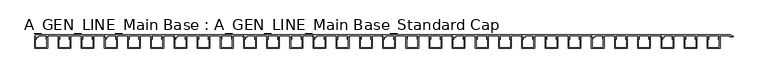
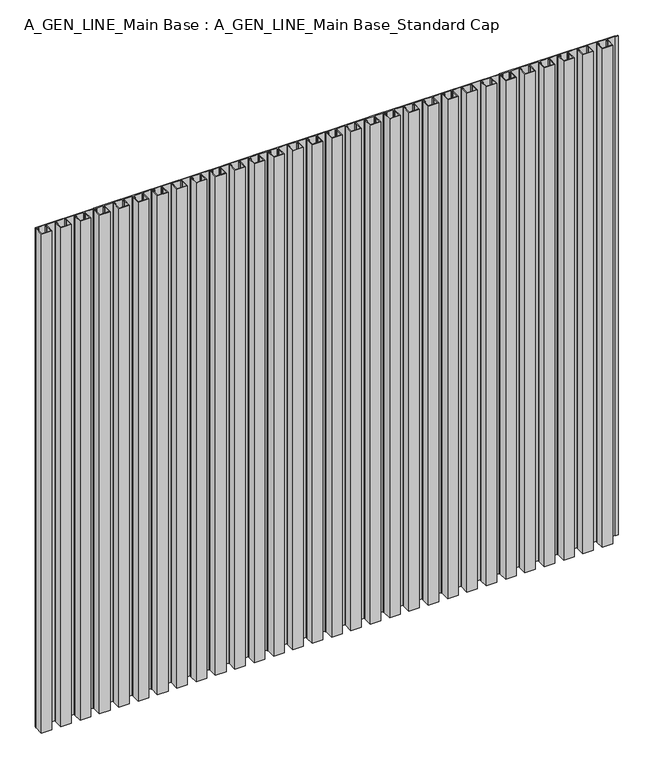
"""IFC4 building model written with IfcOpenShell, lengths in millimetres: proxy geometry, A_GEN_LINE_Main Base : A_GEN_LINE_Main Base_Standard Cap."""

from ifc_helpers import new_model, si_unit, origin, origin_with_axes, place, context, project, spatial, polyline, outline, extrude, source, transform, mapped, element, save


def a_gen_line_main_base_a_gen_line_main_base_standard_cap_d351ea36(model_context):
    return source(origin(), model_context, "Body", "SweptSolid", [
        extrude(outline(polyline([(1594.5994542, -32.2007192), (1594.5994542, -6.1), (1596.7484612, -6.1), (1596.7484612, -8.3419727), (1595.9994542, -8.5826662), (1595.9994542, -30.8007192), (1623.1994542, -30.8007192), (1623.1994542, -8.5826662), (1622.4504472, -8.3419727), (1622.4504472, -6.1), (1624.5994542, -6.1), (1624.5994542, -32.2007192), (1594.5994542, -32.2007192)])), origin_with_axes(), (0.0, 0.0, 1.0), 1500.0),
        extrude(outline(polyline([(1539.5989548, -32.2007192), (1539.5989548, -6.1), (1541.7479618, -6.1), (1541.7479618, -8.3419727), (1540.9989548, -8.5826662), (1540.9989548, -30.8007192), (1568.1989548, -30.8007192), (1568.1989548, -8.5826662), (1567.4499478, -8.3419727), (1567.4499478, -6.1), (1569.5989548, -6.1), (1569.5989548, -32.2007192), (1539.5989548, -32.2007192)])), origin_with_axes(), (0.0, 0.0, 1.0), 1500.0),
        extrude(outline(polyline([(1484.5984554, -32.2007192), (1484.5984554, -6.1), (1486.7474624, -6.1), (1486.7474624, -8.3419727), (1485.9984554, -8.5826662), (1485.9984554, -30.8007192), (1513.1984554, -30.8007192), (1513.1984554, -8.5826662), (1512.4494485, -8.3419727), (1512.4494485, -6.1), (1514.5984554, -6.1), (1514.5984554, -32.2007192), (1484.5984554, -32.2007192)])), origin_with_axes(), (0.0, 0.0, 1.0), 1500.0),
        extrude(outline(polyline([(1429.597956, -32.2007192), (1429.597956, -6.1), (1431.746963, -6.1), (1431.746963, -8.3419727), (1430.997956, -8.5826662), (1430.997956, -30.8007192), (1458.197956, -30.8007192), (1458.197956, -8.5826662), (1457.4489491, -8.3419727), (1457.4489491, -6.1), (1459.597956, -6.1), (1459.597956, -32.2007192), (1429.597956, -32.2007192)])), origin_with_axes(), (0.0, 0.0, 1.0), 1500.0),
        extrude(outline(polyline([(1374.5974566, -32.2007192), (1374.5974566, -6.1), (1376.7464636, -6.1), (1376.7464636, -8.3419727), (1375.9974566, -8.5826662), (1375.9974566, -30.8007192), (1403.1974566, -30.8007192), (1403.1974566, -8.5826662), (1402.4484497, -8.3419727), (1402.4484497, -6.1), (1404.5974566, -6.1), (1404.5974566, -32.2007192), (1374.5974566, -32.2007192)])), origin_with_axes(), (0.0, 0.0, 1.0), 1500.0),
        extrude(outline(polyline([(1319.5969572, -32.2007192), (1319.5969572, -6.1), (1321.7459642, -6.1), (1321.7459642, -8.3419727), (1320.9969572, -8.5826662), (1320.9969572, -30.8007192), (1348.1969572, -30.8007192), (1348.1969572, -8.5826662), (1347.4479503, -8.3419727), (1347.4479503, -6.1), (1349.5969572, -6.1), (1349.5969572, -32.2007192), (1319.5969572, -32.2007192)])), origin_with_axes(), (0.0, 0.0, 1.0), 1500.0),
        extrude(outline(polyline([(1264.5964579, -32.2007192), (1264.5964579, -6.1), (1266.7454648, -6.1), (1266.7454648, -8.3419727), (1265.9964579, -8.5826662), (1265.9964579, -30.8007192), (1293.1964579, -30.8007192), (1293.1964579, -8.5826662), (1292.4474509, -8.3419727), (1292.4474509, -6.1), (1294.5964579, -6.1), (1294.5964579, -32.2007192), (1264.5964579, -32.2007192)])), origin_with_axes(), (0.0, 0.0, 1.0), 1500.0),
        extrude(outline(polyline([(1209.5959585, -32.2007192), (1209.5959585, -6.1), (1211.7449654, -6.1), (1211.7449654, -8.3419727), (1210.9959585, -8.5826662), (1210.9959585, -30.8007192), (1238.1959585, -30.8007192), (1238.1959585, -8.5826662), (1237.4469515, -8.3419727), (1237.4469515, -6.1), (1239.5959585, -6.1), (1239.5959585, -32.2007192), (1209.5959585, -32.2007192)])), origin_with_axes(), (0.0, 0.0, 1.0), 1500.0),
        extrude(outline(polyline([(1154.5954591, -32.2007192), (1154.5954591, -6.1), (1156.744466, -6.1), (1156.744466, -8.3419727), (1155.9954591, -8.5826662), (1155.9954591, -30.8007192), (1183.1954591, -30.8007192), (1183.1954591, -8.5826662), (1182.4464521, -8.3419727), (1182.4464521, -6.1), (1184.5954591, -6.1), (1184.5954591, -32.2007192), (1154.5954591, -32.2007192)])), origin_with_axes(), (0.0, 0.0, 1.0), 1500.0),
        extrude(outline(polyline([(1485.0, 0.0), (1649.5761088, 0.0), (1649.5761088, -2.85), (1655.5761088, -2.85), (1655.5761088, -4.2), (1648.0577537, -4.2), (1648.0577537, -2.4), (1624.5881862, -2.4), (1624.5881862, -6.1021884), (1623.4732128, -6.1021884), (1621.884647, -8.4994005), (1623.1465809, -8.4994005), (1623.1465809, -10.4818695), (1620.9440548, -10.4818695), (1620.9773381, -5.5238337), (1623.0474159, -2.4), (1596.1309809, -2.4), (1598.2301021, -5.6343123), (1598.2301021, -10.4818695), (1596.027576, -10.4818695), (1596.027576, -8.4994005), (1597.2895099, -8.4994005), (1595.7009441, -6.1021884), (1594.5859707, -6.1021884), (1594.5859707, -2.4), (1569.5854713, -2.4), (1569.5854713, -6.1021884), (1568.4704978, -6.1021884), (1566.881932, -8.4994005), (1568.1438659, -8.4994005), (1568.1438659, -10.4818695), (1565.9413399, -10.4818695), (1565.9413399, -5.5740595), (1568.0447009, -2.4), (1541.1304815, -2.4), (1543.2296027, -5.6343123), (1543.2296027, -10.4818695), (1541.0270766, -10.4818695), (1541.0270766, -8.4994005), (1542.2890105, -8.4994005), (1540.7004447, -6.1021884), (1539.5854713, -6.1021884), (1539.5854713, -2.4), (1514.5849719, -2.4), (1514.5849719, -6.1021884), (1513.4699984, -6.1021884), (1511.8814326, -8.4994005), (1513.1433665, -8.4994005), (1513.1433665, -10.4818695), (1510.9408405, -10.4818695), (1510.9408405, -5.6343123), (1513.0399616, -2.4), (1492.2195527, -2.4), (1492.2195527, -6.1), (1488.2291033, -6.1), (1488.2291033, -10.4818695), (1486.0265772, -10.4818695), (1486.0265772, -8.4994005), (1487.2885111, -8.4994005), (1485.6999453, -6.1021884), (1484.6137598, -6.1021884), (1484.6137598, -4.9), (1491.0195527, -4.9), (1491.0195527, -2.7), (1485.0, -2.7), (1485.0, 0.0)])), origin_with_axes(), (0.0, 0.0, 1.0), 1500.0),
        extrude(outline(polyline([(1320.0, 0.0), (1484.5761088, 0.0), (1484.5761088, -2.85), (1490.5761088, -2.85), (1490.5761088, -4.2), (1483.0577537, -4.2), (1483.0577537, -2.4), (1459.5881862, -2.4), (1459.5881862, -6.1021884), (1458.4732128, -6.1021884), (1456.884647, -8.4994005), (1458.1465809, -8.4994005), (1458.1465809, -10.4818695), (1455.9440548, -10.4818695), (1455.9773381, -5.5238337), (1458.0474159, -2.4), (1431.1309809, -2.4), (1433.2301021, -5.6343123), (1433.2301021, -10.4818695), (1431.027576, -10.4818695), (1431.027576, -8.4994005), (1432.2895099, -8.4994005), (1430.7009441, -6.1021884), (1429.5859707, -6.1021884), (1429.5859707, -2.4), (1404.5854713, -2.4), (1404.5854713, -6.1021884), (1403.4704978, -6.1021884), (1401.881932, -8.4994005), (1403.1438659, -8.4994005), (1403.1438659, -10.4818695), (1400.9413399, -10.4818695), (1400.9413399, -5.5740595), (1403.0447009, -2.4), (1376.1304815, -2.4), (1378.2296027, -5.6343123), (1378.2296027, -10.4818695), (1376.0270766, -10.4818695), (1376.0270766, -8.4994005), (1377.2890105, -8.4994005), (1375.7004447, -6.1021884), (1374.5854713, -6.1021884), (1374.5854713, -2.4), (1349.5849719, -2.4), (1349.5849719, -6.1021884), (1348.4699984, -6.1021884), (1346.8814326, -8.4994005), (1348.1433665, -8.4994005), (1348.1433665, -10.4818695), (1345.9408405, -10.4818695), (1345.9408405, -5.6343123), (1348.0399616, -2.4), (1327.2195527, -2.4), (1327.2195527, -6.1), (1323.2291033, -6.1), (1323.2291033, -10.4818695), (1321.0265772, -10.4818695), (1321.0265772, -8.4994005), (1322.2885111, -8.4994005), (1320.6999453, -6.1021884), (1319.6137598, -6.1021884), (1319.6137598, -4.9), (1326.0195527, -4.9), (1326.0195527, -2.7), (1320.0, -2.7), (1320.0, 0.0)])), origin_with_axes(), (0.0, 0.0, 1.0), 1500.0),
        extrude(outline(polyline([(1155.0, 0.0), (1319.5761088, 0.0), (1319.5761088, -2.85), (1325.5761088, -2.85), (1325.5761088, -4.2), (1318.0577537, -4.2), (1318.0577537, -2.4), (1294.5881862, -2.4), (1294.5881862, -6.1021884), (1293.4732128, -6.1021884), (1291.884647, -8.4994005), (1293.1465809, -8.4994005), (1293.1465809, -10.4818695), (1290.9440548, -10.4818695), (1290.9773381, -5.5238337), (1293.0474159, -2.4), (1266.1309809, -2.4), (1268.2301021, -5.6343123), (1268.2301021, -10.4818695), (1266.027576, -10.4818695), (1266.027576, -8.4994005), (1267.2895099, -8.4994005), (1265.7009441, -6.1021884), (1264.5859707, -6.1021884), (1264.5859707, -2.4), (1239.5854713, -2.4), (1239.5854713, -6.1021884), (1238.4704978, -6.1021884), (1236.881932, -8.4994005), (1238.1438659, -8.4994005), (1238.1438659, -10.4818695), (1235.9413399, -10.4818695), (1235.9413399, -5.5740595), (1238.0447009, -2.4), (1211.1304815, -2.4), (1213.2296027, -5.6343123), (1213.2296027, -10.4818695), (1211.0270766, -10.4818695), (1211.0270766, -8.4994005), (1212.2890105, -8.4994005), (1210.7004447, -6.1021884), (1209.5854713, -6.1021884), (1209.5854713, -2.4), (1184.5849719, -2.4), (1184.5849719, -6.1021884), (1183.4699984, -6.1021884), (1181.8814326, -8.4994005), (1183.1433665, -8.4994005), (1183.1433665, -10.4818695), (1180.9408405, -10.4818695), (1180.9408405, -5.6343123), (1183.0399616, -2.4), (1162.2195527, -2.4), (1162.2195527, -6.1), (1158.2291033, -6.1), (1158.2291033, -10.4818695), (1156.0265772, -10.4818695), (1156.0265772, -8.4994005), (1157.2885111, -8.4994005), (1155.6999453, -6.1021884), (1154.6137598, -6.1021884), (1154.6137598, -4.9), (1161.0195527, -4.9), (1161.0195527, -2.7), (1155.0, -2.7), (1155.0, 0.0)])), origin_with_axes(), (0.0, 0.0, 1.0), 1500.0),
        extrude(outline(polyline([(1099.5949597, -32.2007192), (1099.5949597, -6.1), (1101.7439666, -6.1), (1101.7439666, -8.3419727), (1100.9949597, -8.5826662), (1100.9949597, -30.8007192), (1128.1949597, -30.8007192), (1128.1949597, -8.5826662), (1127.4459527, -8.3419727), (1127.4459527, -6.1), (1129.5949597, -6.1), (1129.5949597, -32.2007192), (1099.5949597, -32.2007192)])), origin_with_axes(), (0.0, 0.0, 1.0), 1500.0),
        extrude(outline(polyline([(1044.5944603, -32.2007192), (1044.5944603, -6.1), (1046.7434673, -6.1), (1046.7434673, -8.3419727), (1045.9944603, -8.5826662), (1045.9944603, -30.8007192), (1073.1944603, -30.8007192), (1073.1944603, -8.5826662), (1072.4454533, -8.3419727), (1072.4454533, -6.1), (1074.5944603, -6.1), (1074.5944603, -32.2007192), (1044.5944603, -32.2007192)])), origin_with_axes(), (0.0, 0.0, 1.0), 1500.0),
        extrude(outline(polyline([(989.5939609, -32.2007192), (989.5939609, -6.1), (991.7429679, -6.1), (991.7429679, -8.3419727), (990.9939609, -8.5826662), (990.9939609, -30.8007192), (1018.1939609, -30.8007192), (1018.1939609, -8.5826662), (1017.4449539, -8.3419727), (1017.4449539, -6.1), (1019.5939609, -6.1), (1019.5939609, -32.2007192), (989.5939609, -32.2007192)])), origin_with_axes(), (0.0, 0.0, 1.0), 1500.0),
        extrude(outline(polyline([(934.5934615, -32.2007192), (934.5934615, -6.1), (936.7424685, -6.1), (936.7424685, -8.3419727), (935.9934615, -8.5826662), (935.9934615, -30.8007192), (963.1934615, -30.8007192), (963.1934615, -8.5826662), (962.4444546, -8.3419727), (962.4444546, -6.1), (964.5934615, -6.1), (964.5934615, -32.2007192), (934.5934615, -32.2007192)])), origin_with_axes(), (0.0, 0.0, 1.0), 1500.0),
        extrude(outline(polyline([(879.5929621, -32.2007192), (879.5929621, -6.1), (881.7419691, -6.1), (881.7419691, -8.3419727), (880.9929621, -8.5826662), (880.9929621, -30.8007192), (908.1929621, -30.8007192), (908.1929621, -8.5826662), (907.4439552, -8.3419727), (907.4439552, -6.1), (909.5929621, -6.1), (909.5929621, -32.2007192), (879.5929621, -32.2007192)])), origin_with_axes(), (0.0, 0.0, 1.0), 1500.0),
        extrude(outline(polyline([(824.5924627, -32.2007192), (824.5924627, -6.1), (826.7414697, -6.1), (826.7414697, -8.3419727), (825.9924627, -8.5826662), (825.9924627, -30.8007192), (853.1924627, -30.8007192), (853.1924627, -8.5826662), (852.4434558, -8.3419727), (852.4434558, -6.1), (854.5924627, -6.1), (854.5924627, -32.2007192), (824.5924627, -32.2007192)])), origin_with_axes(), (0.0, 0.0, 1.0), 1500.0),
        extrude(outline(polyline([(769.5919633, -32.2007192), (769.5919633, -6.1), (771.7409703, -6.1), (771.7409703, -8.3419727), (770.9919633, -8.5826662), (770.9919633, -30.8007192), (798.1919633, -30.8007192), (798.1919633, -8.5826662), (797.4429564, -8.3419727), (797.4429564, -6.1), (799.5919633, -6.1), (799.5919633, -32.2007192), (769.5919633, -32.2007192)])), origin_with_axes(), (0.0, 0.0, 1.0), 1500.0),
        extrude(outline(polyline([(714.5914639, -32.2007192), (714.5914639, -6.1), (716.7404709, -6.1), (716.7404709, -8.3419727), (715.9914639, -8.5826662), (715.9914639, -30.8007192), (743.1914639, -30.8007192), (743.1914639, -8.5826662), (742.442457, -8.3419727), (742.442457, -6.1), (744.5914639, -6.1), (744.5914639, -32.2007192), (714.5914639, -32.2007192)])), origin_with_axes(), (0.0, 0.0, 1.0), 1500.0),
        extrude(outline(polyline([(659.5909646, -32.2007192), (659.5909646, -6.1), (661.7399715, -6.1), (661.7399715, -8.3419727), (660.9909646, -8.5826662), (660.9909646, -30.8007192), (688.1909646, -30.8007192), (688.1909646, -8.5826662), (687.4419576, -8.3419727), (687.4419576, -6.1), (689.5909646, -6.1), (689.5909646, -32.2007192), (659.5909646, -32.2007192)])), origin_with_axes(), (0.0, 0.0, 1.0), 1500.0),
        extrude(outline(polyline([(604.5904652, -32.2007192), (604.5904652, -6.1), (606.7394721, -6.1), (606.7394721, -8.3419727), (605.9904652, -8.5826662), (605.9904652, -30.8007192), (633.1904652, -30.8007192), (633.1904652, -8.5826662), (632.4414582, -8.3419727), (632.4414582, -6.1), (634.5904652, -6.1), (634.5904652, -32.2007192), (604.5904652, -32.2007192)])), origin_with_axes(), (0.0, 0.0, 1.0), 1500.0),
        extrude(outline(polyline([(549.5899658, -32.2007192), (549.5899658, -6.1), (551.7389727, -6.1), (551.7389727, -8.3419727), (550.9899658, -8.5826662), (550.9899658, -30.8007192), (578.1899658, -30.8007192), (578.1899658, -8.5826662), (577.4409588, -8.3419727), (577.4409588, -6.1), (579.5899658, -6.1), (579.5899658, -32.2007192), (549.5899658, -32.2007192)])), origin_with_axes(), (0.0, 0.0, 1.0), 1500.0),
        extrude(outline(polyline([(494.5894664, -32.2007192), (494.5894664, -6.1), (496.7384733, -6.1), (496.7384733, -8.3419727), (495.9894664, -8.5826662), (495.9894664, -30.8007192), (523.1894664, -30.8007192), (523.1894664, -8.5826662), (522.4404594, -8.3419727), (522.4404594, -6.1), (524.5894664, -6.1), (524.5894664, -32.2007192), (494.5894664, -32.2007192)])), origin_with_axes(), (0.0, 0.0, 1.0), 1500.0),
        extrude(outline(polyline([(439.588967, -32.2007192), (439.588967, -6.1), (441.737974, -6.1), (441.737974, -8.3419727), (440.988967, -8.5826662), (440.988967, -30.8007192), (468.188967, -30.8007192), (468.188967, -8.5826662), (467.43996, -8.3419727), (467.43996, -6.1), (469.588967, -6.1), (469.588967, -32.2007192), (439.588967, -32.2007192)])), origin_with_axes(), (0.0, 0.0, 1.0), 1500.0),
        extrude(outline(polyline([(384.5884676, -32.2007192), (384.5884676, -6.1), (386.7374746, -6.1), (386.7374746, -8.3419727), (385.9884676, -8.5826662), (385.9884676, -30.8007192), (413.1884676, -30.8007192), (413.1884676, -8.5826662), (412.4394606, -8.3419727), (412.4394606, -6.1), (414.5884676, -6.1), (414.5884676, -32.2007192), (384.5884676, -32.2007192)])), origin_with_axes(), (0.0, 0.0, 1.0), 1500.0),
        extrude(outline(polyline([(329.5879682, -32.2007192), (329.5879682, -6.1), (331.7369752, -6.1), (331.7369752, -8.3419727), (330.9879682, -8.5826662), (330.9879682, -30.8007192), (358.1879682, -30.8007192), (358.1879682, -8.5826662), (357.4389613, -8.3419727), (357.4389613, -6.1), (359.5879682, -6.1), (359.5879682, -32.2007192), (329.5879682, -32.2007192)])), origin_with_axes(), (0.0, 0.0, 1.0), 1500.0),
        extrude(outline(polyline([(274.5874688, -32.2007192), (274.5874688, -6.1), (276.7364758, -6.1), (276.7364758, -8.3419727), (275.9874688, -8.5826662), (275.9874688, -30.8007192), (303.1874688, -30.8007192), (303.1874688, -8.5826662), (302.4384619, -8.3419727), (302.4384619, -6.1), (304.5874688, -6.1), (304.5874688, -32.2007192), (274.5874688, -32.2007192)])), origin_with_axes(), (0.0, 0.0, 1.0), 1500.0),
        extrude(outline(polyline([(219.5869694, -32.2007192), (219.5869694, -6.1), (221.7359764, -6.1), (221.7359764, -8.3419727), (220.9869694, -8.5826662), (220.9869694, -30.8007192), (248.1869694, -30.8007192), (248.1869694, -8.5826662), (247.4379625, -8.3419727), (247.4379625, -6.1), (249.5869694, -6.1), (249.5869694, -32.2007192), (219.5869694, -32.2007192)])), origin_with_axes(), (0.0, 0.0, 1.0), 1500.0),
        extrude(outline(polyline([(164.58647, -32.2007192), (164.58647, -6.1), (166.735477, -6.1), (166.735477, -8.3419727), (165.98647, -8.5826662), (165.98647, -30.8007192), (193.18647, -30.8007192), (193.18647, -8.5826662), (192.4374631, -8.3419727), (192.4374631, -6.1), (194.58647, -6.1), (194.58647, -32.2007192), (164.58647, -32.2007192)])), origin_with_axes(), (0.0, 0.0, 1.0), 1500.0),
        extrude(outline(polyline([(109.5859707, -32.2007192), (109.5859707, -6.1), (111.7349776, -6.1), (111.7349776, -8.3419727), (110.9859707, -8.5826662), (110.9859707, -30.8007192), (138.1859707, -30.8007192), (138.1859707, -8.5826662), (137.4369637, -8.3419727), (137.4369637, -6.1), (139.5859707, -6.1), (139.5859707, -32.2007192), (109.5859707, -32.2007192)])), origin_with_axes(), (0.0, 0.0, 1.0), 1500.0),
        extrude(outline(polyline([(54.5854713, -32.2007192), (54.5854713, -6.1), (56.7344782, -6.1), (56.7344782, -8.3419727), (55.9854713, -8.5826662), (55.9854713, -30.8007192), (83.1854713, -30.8007192), (83.1854713, -8.5826662), (82.4364643, -8.3419727), (82.4364643, -6.1), (84.5854713, -6.1), (84.5854713, -32.2007192), (54.5854713, -32.2007192)])), origin_with_axes(), (0.0, 0.0, 1.0), 1500.0),
        extrude(outline(polyline([(-0.4150281, -32.2007192), (-0.4150281, -6.1), (1.7339788, -6.1), (1.7339788, -8.3419727), (0.9849719, -8.5826662), (0.9849719, -30.8007192), (28.1849719, -30.8007192), (28.1849719, -8.5826662), (27.4359649, -8.3419727), (27.4359649, -6.1), (29.5849719, -6.1), (29.5849719, -32.2007192), (-0.4150281, -32.2007192)])), origin_with_axes(), (0.0, 0.0, 1.0), 1500.0),
        extrude(outline(polyline([(990.0, 0.0), (1154.5761088, 0.0), (1154.5761088, -2.85), (1160.5761088, -2.85), (1160.5761088, -4.2), (1153.0577537, -4.2), (1153.0577537, -2.4), (1129.5881862, -2.4), (1129.5881862, -6.1021884), (1128.4732128, -6.1021884), (1126.884647, -8.4994005), (1128.1465809, -8.4994005), (1128.1465809, -10.4818695), (1125.9440548, -10.4818695), (1125.9773381, -5.5238337), (1128.0474159, -2.4), (1101.1309809, -2.4), (1103.2301021, -5.6343123), (1103.2301021, -10.4818695), (1101.027576, -10.4818695), (1101.027576, -8.4994005), (1102.2895099, -8.4994005), (1100.7009441, -6.1021884), (1099.5859707, -6.1021884), (1099.5859707, -2.4), (1074.5854713, -2.4), (1074.5854713, -6.1021884), (1073.4704978, -6.1021884), (1071.881932, -8.4994005), (1073.1438659, -8.4994005), (1073.1438659, -10.4818695), (1070.9413399, -10.4818695), (1070.9413399, -5.5740595), (1073.0447009, -2.4), (1046.1304815, -2.4), (1048.2296027, -5.6343123), (1048.2296027, -10.4818695), (1046.0270766, -10.4818695), (1046.0270766, -8.4994005), (1047.2890105, -8.4994005), (1045.7004447, -6.1021884), (1044.5854713, -6.1021884), (1044.5854713, -2.4), (1019.5849719, -2.4), (1019.5849719, -6.1021884), (1018.4699984, -6.1021884), (1016.8814326, -8.4994005), (1018.1433665, -8.4994005), (1018.1433665, -10.4818695), (1015.9408405, -10.4818695), (1015.9408405, -5.6343123), (1018.0399616, -2.4), (997.2195527, -2.4), (997.2195527, -6.1), (993.2291033, -6.1), (993.2291033, -10.4818695), (991.0265772, -10.4818695), (991.0265772, -8.4994005), (992.2885111, -8.4994005), (990.6999453, -6.1021884), (989.6137598, -6.1021884), (989.6137598, -4.9), (996.0195527, -4.9), (996.0195527, -2.7), (990.0, -2.7), (990.0, 0.0)])), origin_with_axes(), (0.0, 0.0, 1.0), 1500.0),
        extrude(outline(polyline([(825.0, 0.0), (989.5761088, 0.0), (989.5761088, -2.85), (995.5761088, -2.85), (995.5761088, -4.2), (988.0577537, -4.2), (988.0577537, -2.4), (964.5881862, -2.4), (964.5881862, -6.1021884), (963.4732128, -6.1021884), (961.884647, -8.4994005), (963.1465809, -8.4994005), (963.1465809, -10.4818695), (960.9440548, -10.4818695), (960.9773381, -5.5238337), (963.0474159, -2.4), (936.1309809, -2.4), (938.2301021, -5.6343123), (938.2301021, -10.4818695), (936.027576, -10.4818695), (936.027576, -8.4994005), (937.2895099, -8.4994005), (935.7009441, -6.1021884), (934.5859707, -6.1021884), (934.5859707, -2.4), (909.5854713, -2.4), (909.5854713, -6.1021884), (908.4704978, -6.1021884), (906.881932, -8.4994005), (908.1438659, -8.4994005), (908.1438659, -10.4818695), (905.9413399, -10.4818695), (905.9413399, -5.5740595), (908.0447009, -2.4), (881.1304815, -2.4), (883.2296027, -5.6343123), (883.2296027, -10.4818695), (881.0270766, -10.4818695), (881.0270766, -8.4994005), (882.2890105, -8.4994005), (880.7004447, -6.1021884), (879.5854713, -6.1021884), (879.5854713, -2.4), (854.5849719, -2.4), (854.5849719, -6.1021884), (853.4699984, -6.1021884), (851.8814326, -8.4994005), (853.1433665, -8.4994005), (853.1433665, -10.4818695), (850.9408405, -10.4818695), (850.9408405, -5.6343123), (853.0399616, -2.4), (832.2195527, -2.4), (832.2195527, -6.1), (828.2291033, -6.1), (828.2291033, -10.4818695), (826.0265772, -10.4818695), (826.0265772, -8.4994005), (827.2885111, -8.4994005), (825.6999453, -6.1021884), (824.6137598, -6.1021884), (824.6137598, -4.9), (831.0195527, -4.9), (831.0195527, -2.7), (825.0, -2.7), (825.0, 0.0)])), origin_with_axes(), (0.0, 0.0, 1.0), 1500.0),
        extrude(outline(polyline([(660.0, 0.0), (824.5761088, 0.0), (824.5761088, -2.85), (830.5761088, -2.85), (830.5761088, -4.2), (823.0577537, -4.2), (823.0577537, -2.4), (799.5881862, -2.4), (799.5881862, -6.1021884), (798.4732128, -6.1021884), (796.884647, -8.4994005), (798.1465809, -8.4994005), (798.1465809, -10.4818695), (795.9440548, -10.4818695), (795.9773381, -5.5238337), (798.0474159, -2.4), (771.1309809, -2.4), (773.2301021, -5.6343123), (773.2301021, -10.4818695), (771.027576, -10.4818695), (771.027576, -8.4994005), (772.2895099, -8.4994005), (770.7009441, -6.1021884), (769.5859707, -6.1021884), (769.5859707, -2.4), (744.5854713, -2.4), (744.5854713, -6.1021884), (743.4704978, -6.1021884), (741.881932, -8.4994005), (743.1438659, -8.4994005), (743.1438659, -10.4818695), (740.9413399, -10.4818695), (740.9413399, -5.5740595), (743.0447009, -2.4), (716.1304815, -2.4), (718.2296027, -5.6343123), (718.2296027, -10.4818695), (716.0270766, -10.4818695), (716.0270766, -8.4994005), (717.2890105, -8.4994005), (715.7004447, -6.1021884), (714.5854713, -6.1021884), (714.5854713, -2.4), (689.5849719, -2.4), (689.5849719, -6.1021884), (688.4699984, -6.1021884), (686.8814326, -8.4994005), (688.1433665, -8.4994005), (688.1433665, -10.4818695), (685.9408405, -10.4818695), (685.9408405, -5.6343123), (688.0399616, -2.4), (667.2195527, -2.4), (667.2195527, -6.1), (663.2291033, -6.1), (663.2291033, -10.4818695), (661.0265772, -10.4818695), (661.0265772, -8.4994005), (662.2885111, -8.4994005), (660.6999453, -6.1021884), (659.6137598, -6.1021884), (659.6137598, -4.9), (666.0195527, -4.9), (666.0195527, -2.7), (660.0, -2.7), (660.0, 0.0)])), origin_with_axes(), (0.0, 0.0, 1.0), 1500.0),
        extrude(outline(polyline([(495.0, 0.0), (659.5761088, 0.0), (659.5761088, -2.85), (665.5761088, -2.85), (665.5761088, -4.2), (658.0577537, -4.2), (658.0577537, -2.4), (634.5881862, -2.4), (634.5881862, -6.1021884), (633.4732128, -6.1021884), (631.884647, -8.4994005), (633.1465809, -8.4994005), (633.1465809, -10.4818695), (630.9440548, -10.4818695), (630.9773381, -5.5238337), (633.0474159, -2.4), (606.1309809, -2.4), (608.2301021, -5.6343123), (608.2301021, -10.4818695), (606.027576, -10.4818695), (606.027576, -8.4994005), (607.2895099, -8.4994005), (605.7009441, -6.1021884), (604.5859707, -6.1021884), (604.5859707, -2.4), (579.5854713, -2.4), (579.5854713, -6.1021884), (578.4704978, -6.1021884), (576.881932, -8.4994005), (578.1438659, -8.4994005), (578.1438659, -10.4818695), (575.9413399, -10.4818695), (575.9413399, -5.5740595), (578.0447009, -2.4), (551.1304815, -2.4), (553.2296027, -5.6343123), (553.2296027, -10.4818695), (551.0270766, -10.4818695), (551.0270766, -8.4994005), (552.2890105, -8.4994005), (550.7004447, -6.1021884), (549.5854713, -6.1021884), (549.5854713, -2.4), (524.5849719, -2.4), (524.5849719, -6.1021884), (523.4699984, -6.1021884), (521.8814326, -8.4994005), (523.1433665, -8.4994005), (523.1433665, -10.4818695), (520.9408405, -10.4818695), (520.9408405, -5.6343123), (523.0399616, -2.4), (502.2195527, -2.4), (502.2195527, -6.1), (498.2291033, -6.1), (498.2291033, -10.4818695), (496.0265772, -10.4818695), (496.0265772, -8.4994005), (497.2885111, -8.4994005), (495.6999453, -6.1021884), (494.6137598, -6.1021884), (494.6137598, -4.9), (501.0195527, -4.9), (501.0195527, -2.7), (495.0, -2.7), (495.0, 0.0)])), origin_with_axes(), (0.0, 0.0, 1.0), 1500.0),
        extrude(outline(polyline([(330.0, 0.0), (494.5761088, 0.0), (494.5761088, -2.85), (500.5761088, -2.85), (500.5761088, -4.2), (493.0577537, -4.2), (493.0577537, -2.4), (469.5881862, -2.4), (469.5881862, -6.1021884), (468.4732128, -6.1021884), (466.884647, -8.4994005), (468.1465809, -8.4994005), (468.1465809, -10.4818695), (465.9440548, -10.4818695), (465.9773381, -5.5238337), (468.0474159, -2.4), (441.1309809, -2.4), (443.2301021, -5.6343123), (443.2301021, -10.4818695), (441.027576, -10.4818695), (441.027576, -8.4994005), (442.2895099, -8.4994005), (440.7009441, -6.1021884), (439.5859707, -6.1021884), (439.5859707, -2.4), (414.5854713, -2.4), (414.5854713, -6.1021884), (413.4704978, -6.1021884), (411.881932, -8.4994005), (413.1438659, -8.4994005), (413.1438659, -10.4818695), (410.9413399, -10.4818695), (410.9413399, -5.5740595), (413.0447009, -2.4), (386.1304815, -2.4), (388.2296027, -5.6343123), (388.2296027, -10.4818695), (386.0270766, -10.4818695), (386.0270766, -8.4994005), (387.2890105, -8.4994005), (385.7004447, -6.1021884), (384.5854713, -6.1021884), (384.5854713, -2.4), (359.5849719, -2.4), (359.5849719, -6.1021884), (358.4699984, -6.1021884), (356.8814326, -8.4994005), (358.1433665, -8.4994005), (358.1433665, -10.4818695), (355.9408405, -10.4818695), (355.9408405, -5.6343123), (358.0399616, -2.4), (337.2195527, -2.4), (337.2195527, -6.1), (333.2291033, -6.1), (333.2291033, -10.4818695), (331.0265772, -10.4818695), (331.0265772, -8.4994005), (332.2885111, -8.4994005), (330.6999453, -6.1021884), (329.6137598, -6.1021884), (329.6137598, -4.9), (336.0195527, -4.9), (336.0195527, -2.7), (330.0, -2.7), (330.0, 0.0)])), origin_with_axes(), (0.0, 0.0, 1.0), 1500.0),
        extrude(outline(polyline([(165.0, 0.0), (329.5761088, 0.0), (329.5761088, -2.85), (335.5761088, -2.85), (335.5761088, -4.2), (328.0577537, -4.2), (328.0577537, -2.4), (304.5881862, -2.4), (304.5881862, -6.1021884), (303.4732128, -6.1021884), (301.884647, -8.4994005), (303.1465809, -8.4994005), (303.1465809, -10.4818695), (300.9440548, -10.4818695), (300.9773381, -5.5238337), (303.0474159, -2.4), (276.1309809, -2.4), (278.2301021, -5.6343123), (278.2301021, -10.4818695), (276.027576, -10.4818695), (276.027576, -8.4994005), (277.2895099, -8.4994005), (275.7009441, -6.1021884), (274.5859707, -6.1021884), (274.5859707, -2.4), (249.5854713, -2.4), (249.5854713, -6.1021884), (248.4704978, -6.1021884), (246.881932, -8.4994005), (248.1438659, -8.4994005), (248.1438659, -10.4818695), (245.9413399, -10.4818695), (245.9413399, -5.5740595), (248.0447009, -2.4), (221.1304815, -2.4), (223.2296027, -5.6343123), (223.2296027, -10.4818695), (221.0270766, -10.4818695), (221.0270766, -8.4994005), (222.2890105, -8.4994005), (220.7004447, -6.1021884), (219.5854713, -6.1021884), (219.5854713, -2.4), (194.5849719, -2.4), (194.5849719, -6.1021884), (193.4699984, -6.1021884), (191.8814326, -8.4994005), (193.1433665, -8.4994005), (193.1433665, -10.4818695), (190.9408405, -10.4818695), (190.9408405, -5.6343123), (193.0399616, -2.4), (172.2195527, -2.4), (172.2195527, -6.1), (168.2291033, -6.1), (168.2291033, -10.4818695), (166.0265772, -10.4818695), (166.0265772, -8.4994005), (167.2885111, -8.4994005), (165.6999453, -6.1021884), (164.6137598, -6.1021884), (164.6137598, -4.9), (171.0195527, -4.9), (171.0195527, -2.7), (165.0, -2.7), (165.0, 0.0)])), origin_with_axes(), (0.0, 0.0, 1.0), 1500.0),
        extrude(outline(polyline([(0.0, 0.0), (164.5761088, 0.0), (164.5761088, -2.85), (170.5761088, -2.85), (170.5761088, -4.2), (163.0577537, -4.2), (163.0577537, -2.4), (139.5881862, -2.4), (139.5881862, -6.1021884), (138.4732128, -6.1021884), (136.884647, -8.4994005), (138.1465809, -8.4994005), (138.1465809, -10.4818695), (135.9440548, -10.4818695), (135.9773381, -5.5238337), (138.0474159, -2.4), (111.1309809, -2.4), (113.2301021, -5.6343123), (113.2301021, -10.4818695), (111.027576, -10.4818695), (111.027576, -8.4994005), (112.2895099, -8.4994005), (110.7009441, -6.1021884), (109.5859707, -6.1021884), (109.5859707, -2.4), (84.5854713, -2.4), (84.5854713, -6.1021884), (83.4704978, -6.1021884), (81.881932, -8.4994005), (83.1438659, -8.4994005), (83.1438659, -10.4818695), (80.9413399, -10.4818695), (80.9413399, -5.5740595), (83.0447009, -2.4), (56.1304815, -2.4), (58.2296027, -5.6343123), (58.2296027, -10.4818695), (56.0270766, -10.4818695), (56.0270766, -8.4994005), (57.2890105, -8.4994005), (55.7004447, -6.1021884), (54.5854713, -6.1021884), (54.5854713, -2.4), (29.5849719, -2.4), (29.5849719, -6.1021884), (28.4699984, -6.1021884), (26.8814326, -8.4994005), (28.1433665, -8.4994005), (28.1433665, -10.4818695), (25.9408405, -10.4818695), (25.9408405, -5.6343123), (28.0399616, -2.4), (7.2195527, -2.4), (7.2195527, -6.1), (3.2291033, -6.1), (3.2291033, -10.4818695), (1.0265772, -10.4818695), (1.0265772, -8.4994005), (2.2885111, -8.4994005), (0.6999453, -6.1021884), (-0.3862402, -6.1021884), (-0.3862402, -4.9), (6.0195527, -4.9), (6.0195527, -2.7), (0.0, -2.7), (0.0, 0.0)])), origin_with_axes(), (0.0, 0.0, 1.0), 1500.0),
    ])


if __name__ == "__main__":
    model = new_model("IFC4")
    model_context = context("Model", 3, world=origin())
    ifc_project = project(units=[si_unit("LENGTHUNIT", "METRE", prefix="MILLI")], contexts=[model_context])
    site = spatial("IfcSite", under=ifc_project)
    building = spatial("IfcBuilding", under=site)
    placement = place(None, origin())
    a_gen_line_main_base_a_gen_line_main_base_standard_cap_shape = a_gen_line_main_base_a_gen_line_main_base_standard_cap_d351ea36(model_context)
    element("IfcBuildingElementProxy", 1, Name="A_GEN_LINE_Main Base : A_GEN_LINE_Main Base_Standard Cap", ObjectType="A_GEN_LINE_Main Base : A_GEN_LINE_Main Base_Standard Cap", at=placement, inside=building, context=model_context, shape_type="MappedRepresentation", body=[
        mapped(a_gen_line_main_base_a_gen_line_main_base_standard_cap_shape, transform((0.0, 0.0, 0.0), x_axis=(1.0, 0.0, 0.0), y_axis=(0.0, 1.0, 0.0), z_axis=(0.0, 0.0, 1.0))),
    ])
    save(model, "model.ifc")
